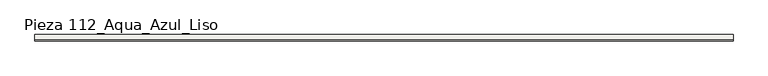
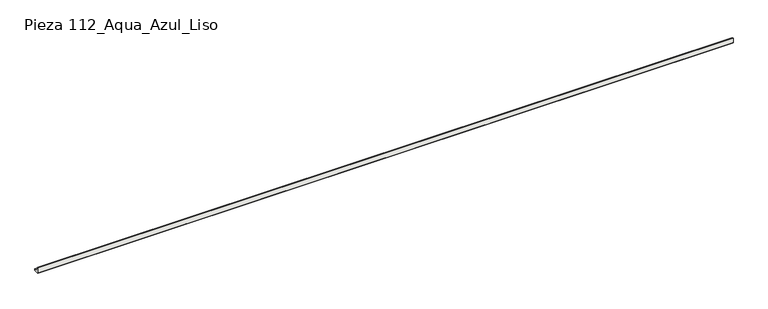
"""IFC4 building model written with IfcOpenShell, lengths in millimetres: slab geometry, ROSA GRES_112 : Pieza 112_Aqua_Azul_Liso."""

from ifc_helpers import new_model, si_unit, point, frame, frame_2d, origin, place, context, project, spatial, polyline, circle_curve, trimmed, segment, composite_curve, outline, extrude, source, transform, mapped, element, save


def pieza_112_aqua_azul_liso_6f2f62ad(model_context):
    return source(origin(), model_context, "Body", "SweptSolid", [
        extrude(outline(composite_curve([segment(polyline([(0.0, 8.7114978), (0.0, 40.0), (9.9734114, 40.0)]), True, "CONTINUOUS"), segment(trimmed(circle_curve(frame_2d((39.9955547, 39.9955547)), 30.0221435), [point((9.9734114, 40.0))], [point((40.0, 9.9734114))], True, "CARTESIAN"), True, "CONTINUOUS"), segment(polyline([(40.0, 9.9734114), (40.0, 0.0), (8.7114978, 0.0), (0.0, 8.7114978)]), True, "CONTINUOUS")], self_intersect=False)), frame((0.0, 0.0, 0.0), z_axis=(1.0, 0.0, 0.0), x_axis=(0.0, 1.0, 0.0)), (0.0, 0.0, 1.0), 4516.7948241),
    ])


if __name__ == "__main__":
    model = new_model("IFC4")
    model_context = context("Model", 3, world=origin())
    ifc_project = project(units=[si_unit("LENGTHUNIT", "METRE", prefix="MILLI")], contexts=[model_context])
    site = spatial("IfcSite", under=ifc_project)
    building = spatial("IfcBuilding", under=site)
    placement = place(None, origin())
    pieza_112_aqua_azul_liso_shape = pieza_112_aqua_azul_liso_6f2f62ad(model_context)
    element("IfcSlab", 1, ObjectType="ROSA GRES_112 : Pieza 112_Aqua_Azul_Liso", at=placement, inside=building, context=model_context, shape_type="MappedRepresentation", body=[
        mapped(pieza_112_aqua_azul_liso_shape, transform((0.0, 0.0, 0.0), x_axis=(1.0, 0.0, 0.0), y_axis=(0.0, 1.0, 0.0), z_axis=(0.0, 0.0, 1.0))),
    ])
    save(model, "model.ifc")
